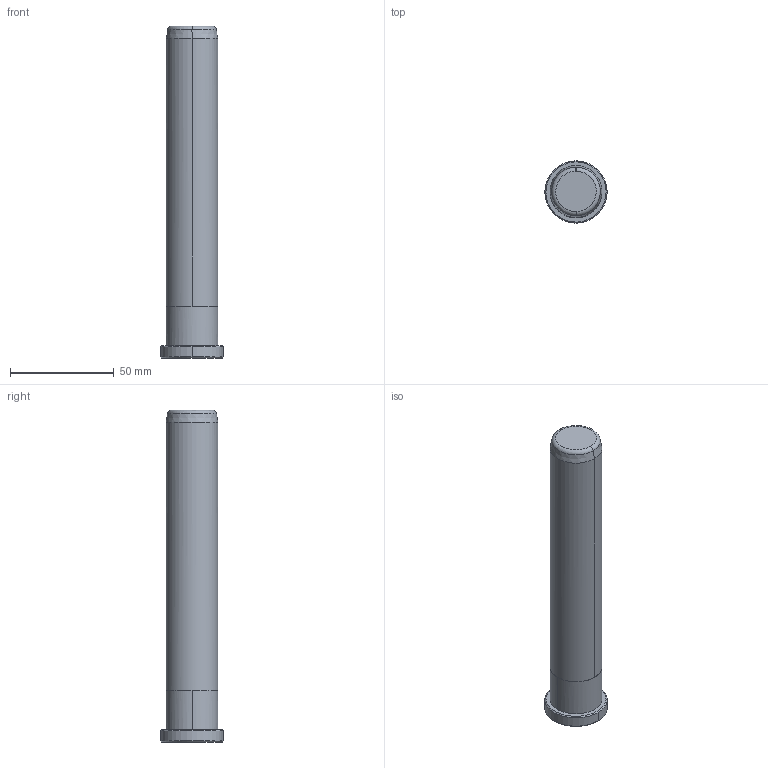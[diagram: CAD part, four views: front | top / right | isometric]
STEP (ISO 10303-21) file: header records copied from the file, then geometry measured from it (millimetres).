
FILE_DESCRIPTION(('CATIA V5 STEP Exchange'),'2;1');
FILE_NAME('C:\Users\Raffaele\Desktop\3D BOLEX\3D FILES CF BOLEX\12-PILLAR REF 858\B85825160.stp','2019-06-20T12:42:44+00:00',('none'),('none'),'CATIA Version 5 Release 20 GA (IN-10)','CATIA V5 STEP AP203','none');
FILE_SCHEMA(('CONFIG_CONTROL_DESIGN'));
Length unit declared in the file: millimetre
Products named in the file (1): B85825160
Bounding box: 30 x 30 x 160 mm (x, y, z)
Volume: 79545.6 mm3; surface area: 13885.2 mm2
Topology: 1 solids, 1 shells, 20 faces, 40 edges, 24 vertices
Faces by surface type: cone 6, cylinder 6, plane 4, torus 4
Entity records: 653 total; most frequent: CARTESIAN_POINT 210, ORIENTED_EDGE 80, DIRECTION 73, AXIS2_PLACEMENT_3D 42, EDGE_CURVE 40, VERTEX_POINT 24, EDGE_LOOP 22, CIRCLE 21
